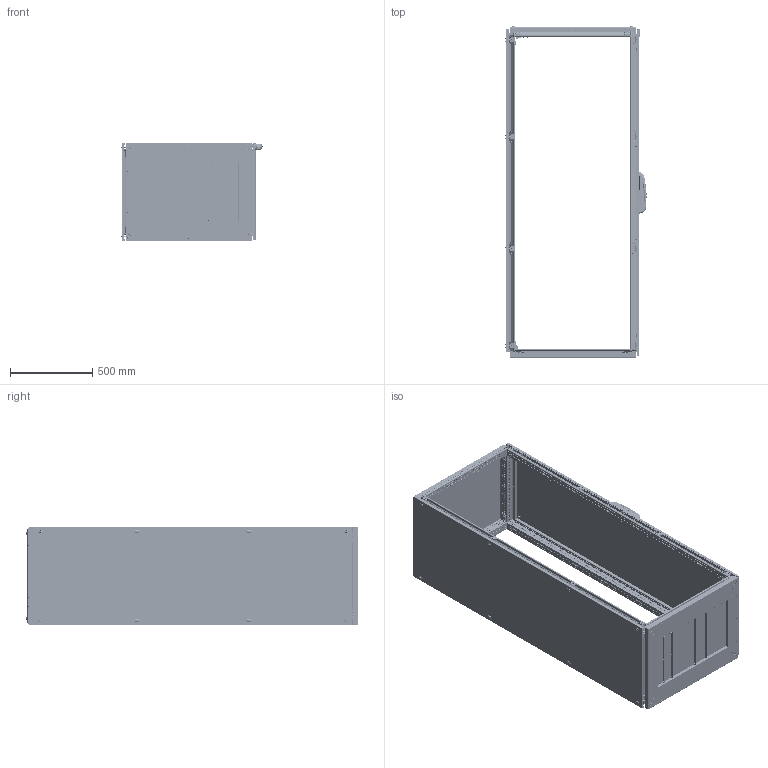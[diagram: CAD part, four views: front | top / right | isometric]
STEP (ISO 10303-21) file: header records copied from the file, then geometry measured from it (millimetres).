
FILE_DESCRIPTION (( 'STEP AP214' ), '1' );
FILE_NAME ('T200608S - 2000 H X 600 W X 800 D.STEP', '2026-09-14T06:05:43', ( '' ), ( '' ), 'SwSTEP 2.0', 'SolidWorks 2025', '' );
FILE_SCHEMA (( 'AUTOMOTIVE_DESIGN' ));
Length unit declared in the file: millimetre
Products named in the file (96): DDENEME5DENEME4TEOS Kilit Alt Çubuk_2000; 03-TABAN SACI U1 04-2012_PP 12.0035 - 600-200; 03-KOSE PUNT; PB 14.0004 M6 Countersunk Plastic Screw Holder; somu; L CORNER SUPPORT; Teos-Neo Mounting Plate Right Bracket Mounting_Standart Pozisyon; M8 Somun Kafesi_m8; DDENEME5DENEME4MP 18.7631 Kayar Parça; 22032010-PLASTIK KOSE50x40; TEOS REAR PANEL_703.420 400x2000; Front Door Plastic Screw Holder; 03-TABAN SACI U1 04-2012_PP 12.0040 - 600-75; M8 KAFES SOMUN_m8; PM 25.0037 WITH CAGE NUT TEOS LOCK BRACKET TOP-BOTTOM; somu 2025; DDENEME5DENEME4TEOS Kilit Çubuk Dili; socket button head cap screw_am_B18.3.4M - 12 x 1.75 x 30 SBHCS --N; 03-TABAN SACI SURGU_PP 12.0030 - 600; Teos-Neo MP Durdurucu; mp aLT DAYAMA_PP 12.0094 - 800; Teos-Neo 3mm MOUNTING PLATE_TEOS MP 600x2000; TEOS FRONT DOOR_600x2000; CORNER BRACKET 2; DDENEME5DENEME4MP 18.7631 204 handle REV04 tekpan logo; PM 25.0038 WITH CAGE NUT TEOS LOCK BRACKET TOP-MIDDLE; MP 25.0028 TEOS ALT - ÜST KİLİT DİLİ; Mirror03-KOSE PUNT; PM 25.0040 WITH CAGE NUT TEOS SIDE AND REAR PANEL BRACKET - MIDDLE; DDENEME5DENEME4MP 18.7631 Gövde-Plastik; torque nut 01_isoo_ISO 7040-M6-N; Base width with rivet_PP 12.0019 - 600; Mounting Plate bottom wedge screw; Teos-Neo Mounting Plate Left Bracket Mounting_Standart Pozisyon; DDENEME5DENEME4MP 18.7631 Tekpan ASSEMBLY 27092017_mekanizmasiz; DDENEME5DENEME4MP 18.7631 Arka Kapak; T200608S -  2000 H X 600 W X 800 D; MP 14.0007 M6 PLASTİK HAVSA; MP 25.0026 TEOS MENTEŞE ALT - ÜST; Hexagon Flange Nut ISO - 4161 - M6 inox_PreviewCfg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
Assembly tree (317 placements, depth 5):
  T200608S -  2000 H X 600 W X 800 D
    TEOS FRAME ASSEMBLY_600x2000x800
      TEOS FRAME_2000   x4
      TEOS FRAME_800  x4
      TEOS FRAME_600  x4
      L CORNER SUPPORT  x8
      CORNER BRACKET  x15
      CORNER BRACKET 2
      MP 11.0140 TEOS ALUMINIUM CORNER  x8
      M5 SQUARE WASHER  x16
      Riveted Base_701.680-60X80 ALT
        Base width with rivet_PP 12.0019 - 600  x2
        Base depth with rivet_PP 12.0026 - 800  x2
        03-KOSE PUNT_PP 12.0027
        03-KOSE PUNT
        Mirror03-KOSE PUNT  x2
        03-TABAN SACI SURGU_PP 12.0030 - 600  x2
        03-TABAN SACI U1 04-2012_PP 12.0040 - 600-75
        03-TABAN SACI U1 04-2012_PP 12.0035 - 600-200  x2
        mp aLT DAYAMA_PP 12.0094 - 800  x2
      socket button head cap screw_am_B18.3.4M - 8 x 1.25 x 16 SBHCS --N  x53
      pan cross head_am1_B18.6.7M - M5 x 0.8 x 10 Type I Cross Recessed PHMS --10N  x21
      B18.3.5M - 5 x 0.8 x 10 Socket FCHS  -- 10N_B18.3.5M - 5 x 0.8 x 10 Socket FCHS  -- 10N  x16
      PM 25.0039 WITH CAGE NUT TEOS SIDE AND REAR PANEL BRACKET TOP - BOTTOM  x4
        MP 25.0030 TEOS YAN VE ARKA KAPAK BAĞLANTI SACI ALT - ÜST
        M6 KAFES SOMU2015 2025
          kafes somun kafes 2025
          somu 2025
      PM 25.0040 WITH CAGE NUT TEOS SIDE AND REAR PANEL BRACKET - MIDDLE  x4
        MP 25.0031 TEOS YAN VE ARKA KAPAK BAĞLANTI SACI ORTA
        M6 KAFES SOMU2015 2025
          kafes somun kafes 2025
          somu 2025
      PM 25.0037 WITH CAGE NUT TEOS LOCK BRACKET TOP-BOTTOM  x2
        MP 25.0028 TEOS ALT - ÜST KİLİT DİLİ
        M6 KAFES SOMU2015 2025
          kafes somun kafes 2025
          somu 2025
      PM 25.0038 WITH CAGE NUT TEOS LOCK BRACKET TOP-MIDDLE  x2
        MP 25.0029 TEOS ORTA KİLİT DİLİ
        M6 KAFES SOMU2015 2025
          kafes somun kafes 2025
          somu 2025
      PM 25.0041 HINGE BRACKET WITH CAGE NUT TOP - BOTTOM  x2
        MP 25.0026 TEOS MENTEŞE ALT - ÜST
        M6 KAFES SOMU
          kafes somun kafes
          somu
      PM 25.0042 HINGE BRACKET WITH CAGE NUT TOP - MIDDLE  x2
        MP 25.0027 TEOS MENTEŞE ORTA
        M6 KAFES SOMU2015 2025
          kafes somun kafes 2025
          somu 2025
    TEOS TOP COVER_PP 12.0007 600X800
    TEOS FRONT DOOR_600x2000
      Front Door 2 mm DKP_PP 17.1082 600x2000
      Front Door Plastic Screw Holder  x4
      Crossmember Frontdoor_600x2000
        ENINE DELIKLI PROFIL_600  x2
        BOYUNA DELIKLI PROFIL_2000  x2
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Bounding box: 858.18 x 2018.08 x 601.56 mm (x, y, z)
Volume: 16053329.7 mm3; surface area: 16234280.2 mm2
Topology: 341 solids, 381 shells, 46453 faces, 124794 edges, 78673 vertices
Faces by surface type: plane 28210, cylinder 13386, bspline 2261, cone 1096, torus 889, sphere 611
Entity records: 620616 total; most frequent: CARTESIAN_POINT 286138, ORIENTED_EDGE 70784, DIRECTION 65345, EDGE_CURVE 35392, VERTEX_POINT 22584, AXIS2_PLACEMENT_3D 21804, VECTOR 21737, LINE 21737
